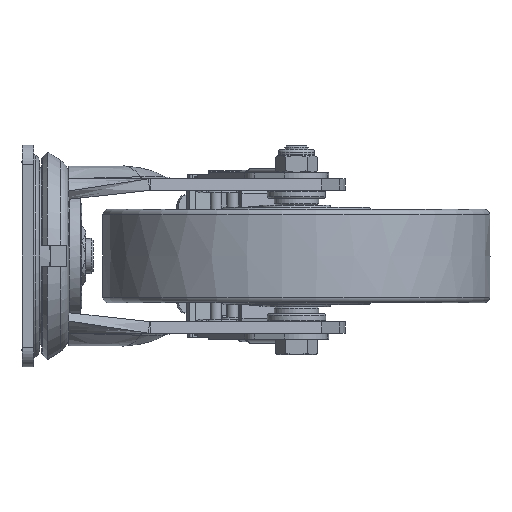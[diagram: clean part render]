
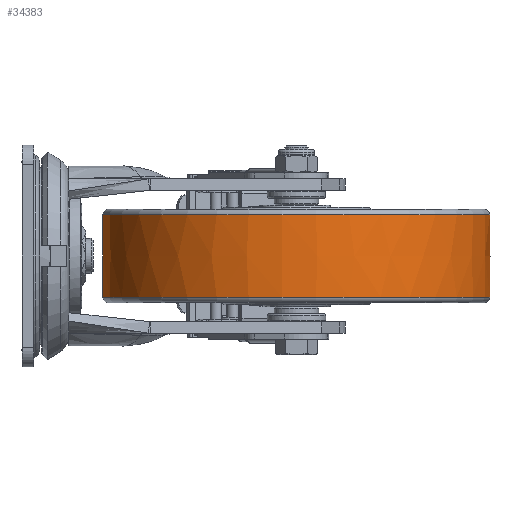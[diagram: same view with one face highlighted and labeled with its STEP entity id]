
A CAD part, left-side view. The second image highlights one B-rep face of the part: STEP entity #34383.
In plain terms, the highlighted free-form (B-spline) face has degree [2, 2] with [3, 9] control points.
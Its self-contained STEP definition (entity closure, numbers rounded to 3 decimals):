
#29=(
BOUNDED_SURFACE()
B_SPLINE_SURFACE(2,2,((#58865,#58866,#58867,#58868,#58869,#58870,#58871,
#58872,#58873),(#58874,#58875,#58876,#58877,#58878,#58879,#58880,#58881,
#58882),(#58883,#58884,#58885,#58886,#58887,#58888,#58889,#58890,#58891)),
 .UNSPECIFIED.,.F.,.T.,.F.)
B_SPLINE_SURFACE_WITH_KNOTS((3,3),(3,2,2,2,3),(-0.03,0.03),
(-3.142,-1.571,0.,1.571,3.142),
 .UNSPECIFIED.)
GEOMETRIC_REPRESENTATION_ITEM()
RATIONAL_B_SPLINE_SURFACE(((1.,0.707,1.,0.707,1.,
0.707,1.,0.707,1.),(1.,0.707,
1.,0.707,1.,0.707,
1.,0.707,1.),(1.,0.707,
1.,0.707,1.,0.707,1.,0.707,1.)))
REPRESENTATION_ITEM('')
SURFACE()
);
#584=(
BOUNDED_CURVE()
B_SPLINE_CURVE(2,(#58896,#58897,#58898),.UNSPECIFIED.,.F.,.F.)
B_SPLINE_CURVE_WITH_KNOTS((3,3),(-0.03,0.03),
 .UNSPECIFIED.)
CURVE()
GEOMETRIC_REPRESENTATION_ITEM()
RATIONAL_B_SPLINE_CURVE((1.,1.,1.))
REPRESENTATION_ITEM('')
);
#9917=FACE_OUTER_BOUND('',#11939,.T.);
#11939=EDGE_LOOP('',(#29581,#29582,#29583,#29584,#29585,#29586));
#12763=CIRCLE('',#36990,99.682);
#12764=CIRCLE('',#36991,99.682);
#12766=CIRCLE('',#36993,99.682);
#12767=CIRCLE('',#36994,99.682);
#15790=VERTEX_POINT('',#58859);
#15791=VERTEX_POINT('',#58860);
#15793=VERTEX_POINT('',#58892);
#15794=VERTEX_POINT('',#58893);
#20395=EDGE_CURVE('',#15790,#15791,#12763,.T.);
#20396=EDGE_CURVE('',#15791,#15790,#12764,.T.);
#20398=EDGE_CURVE('',#15793,#15794,#12766,.T.);
#20399=EDGE_CURVE('',#15794,#15793,#12767,.T.);
#20400=EDGE_CURVE('',#15794,#15791,#584,.T.);
#29581=ORIENTED_EDGE('',*,*,#20398,.F.);
#29582=ORIENTED_EDGE('',*,*,#20399,.F.);
#29583=ORIENTED_EDGE('',*,*,#20400,.T.);
#29584=ORIENTED_EDGE('',*,*,#20396,.T.);
#29585=ORIENTED_EDGE('',*,*,#20395,.T.);
#29586=ORIENTED_EDGE('',*,*,#20400,.F.);
#34383=ADVANCED_FACE('',(#9917),#29,.F.);
#36990=AXIS2_PLACEMENT_3D('',#58861,#45638,#45639);
#36991=AXIS2_PLACEMENT_3D('',#58862,#45640,#45641);
#36993=AXIS2_PLACEMENT_3D('',#58894,#45644,#45645);
#36994=AXIS2_PLACEMENT_3D('',#58895,#45646,#45647);
#45638=DIRECTION('center_axis',(0.,0.,
1.));
#45639=DIRECTION('ref_axis',(0.997,-0.075,0.));
#45640=DIRECTION('center_axis',(0.,0.,
1.));
#45641=DIRECTION('ref_axis',(0.997,-0.075,0.));
#45644=DIRECTION('center_axis',(0.,0.,
1.));
#45645=DIRECTION('ref_axis',(0.997,-0.075,0.));
#45646=DIRECTION('center_axis',(0.,0.,
1.));
#45647=DIRECTION('ref_axis',(0.997,-0.075,0.));
#58859=CARTESIAN_POINT('',(60.075,-32.206,-21.09));
#58860=CARTESIAN_POINT('',(-46.774,-124.165,-21.09));
#58861=CARTESIAN_POINT('Origin',(52.63,-131.609,-21.09));
#58862=CARTESIAN_POINT('Origin',(52.63,-131.609,-21.09));
#58865=CARTESIAN_POINT('Ctrl Pts',(-46.774,-124.165,-21.09));
#58866=CARTESIAN_POINT('Ctrl Pts',(-54.218,-223.569,
-21.09));
#58867=CARTESIAN_POINT('Ctrl Pts',(45.186,-231.013,-21.09));
#58868=CARTESIAN_POINT('Ctrl Pts',(144.589,-238.458,-21.09));
#58869=CARTESIAN_POINT('Ctrl Pts',(152.034,-139.054,-21.09));
#58870=CARTESIAN_POINT('Ctrl Pts',(159.479,-39.65,-21.09));
#58871=CARTESIAN_POINT('Ctrl Pts',(60.075,-32.206,-21.09));
#58872=CARTESIAN_POINT('Ctrl Pts',(-39.329,-24.761,
-21.09));
#58873=CARTESIAN_POINT('Ctrl Pts',(-46.774,-124.165,-21.09));
#58874=CARTESIAN_POINT('Ctrl Pts',(-47.408,-124.117,
0.));
#58875=CARTESIAN_POINT('Ctrl Pts',(-54.9,-224.155,
0.));
#58876=CARTESIAN_POINT('Ctrl Pts',(45.138,-231.647,0.));
#58877=CARTESIAN_POINT('Ctrl Pts',(145.176,-239.139,0.));
#58878=CARTESIAN_POINT('Ctrl Pts',(152.668,-139.102,0.));
#58879=CARTESIAN_POINT('Ctrl Pts',(160.16,-39.064,0.));
#58880=CARTESIAN_POINT('Ctrl Pts',(60.122,-31.572,0.));
#58881=CARTESIAN_POINT('Ctrl Pts',(-39.916,-24.08,0.));
#58882=CARTESIAN_POINT('Ctrl Pts',(-47.408,-124.117,
0.));
#58883=CARTESIAN_POINT('Ctrl Pts',(-46.774,-124.165,
21.09));
#58884=CARTESIAN_POINT('Ctrl Pts',(-54.218,-223.569,
21.09));
#58885=CARTESIAN_POINT('Ctrl Pts',(45.186,-231.013,21.09));
#58886=CARTESIAN_POINT('Ctrl Pts',(144.589,-238.458,21.09));
#58887=CARTESIAN_POINT('Ctrl Pts',(152.034,-139.054,21.09));
#58888=CARTESIAN_POINT('Ctrl Pts',(159.479,-39.65,21.09));
#58889=CARTESIAN_POINT('Ctrl Pts',(60.075,-32.206,21.09));
#58890=CARTESIAN_POINT('Ctrl Pts',(-39.329,-24.761,
21.09));
#58891=CARTESIAN_POINT('Ctrl Pts',(-46.774,-124.165,
21.09));
#58892=CARTESIAN_POINT('',(60.075,-32.206,21.09));
#58893=CARTESIAN_POINT('',(-46.774,-124.165,21.09));
#58894=CARTESIAN_POINT('Origin',(52.63,-131.609,21.09));
#58895=CARTESIAN_POINT('Origin',(52.63,-131.609,21.09));
#58896=CARTESIAN_POINT('Ctrl Pts',(-46.774,-124.165,
21.09));
#58897=CARTESIAN_POINT('Ctrl Pts',(-47.408,-124.117,
0.));
#58898=CARTESIAN_POINT('Ctrl Pts',(-46.774,-124.165,-21.09));
